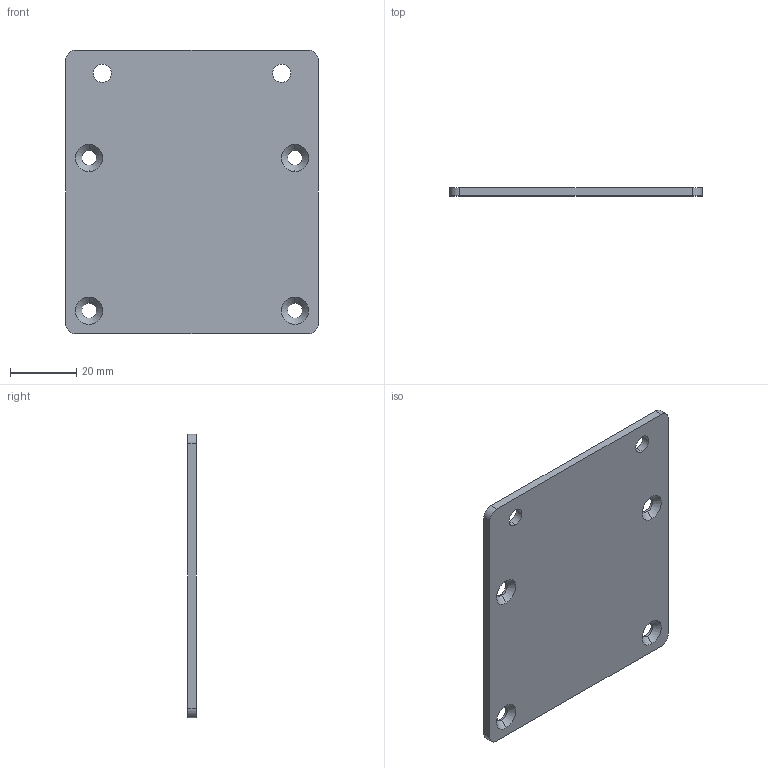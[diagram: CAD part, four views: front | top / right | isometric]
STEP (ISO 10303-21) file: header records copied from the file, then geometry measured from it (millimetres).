
FILE_DESCRIPTION (( 'STEP AP214' ), '1' );
FILE_NAME ('AC-04A_ブラケット.STEP', '2024-06-18T02:29:09', ( '' ), ( '' ), 'SwSTEP 2.0', 'SolidWorks 2023', '' );
FILE_SCHEMA (( 'AUTOMOTIVE_DESIGN' ));
Length unit declared in the file: millimetre
Products named in the file (1): AC-04A_ブラケット
Bounding box: 76 x 2.5 x 85.5 mm (x, y, z)
Volume: 15824.6 mm3; surface area: 13737.2 mm2
Topology: 1 solids, 1 shells, 30 faces, 76 edges, 48 vertices
Faces by surface type: cylinder 16, cone 8, plane 6
Entity records: 963 total; most frequent: DIRECTION 178, CARTESIAN_POINT 155, ORIENTED_EDGE 152, EDGE_CURVE 76, AXIS2_PLACEMENT_3D 71, VERTEX_POINT 48, EDGE_LOOP 42, CIRCLE 40
